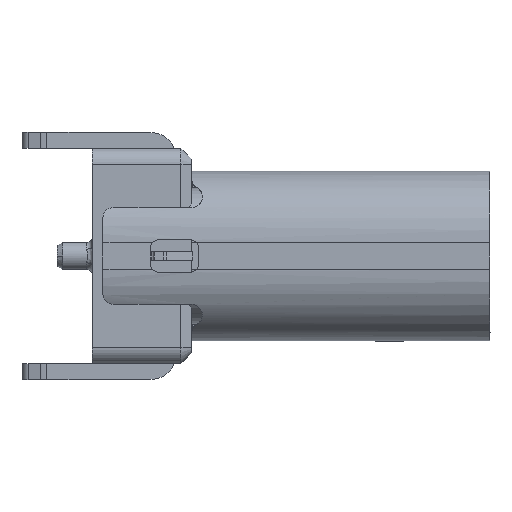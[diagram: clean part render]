
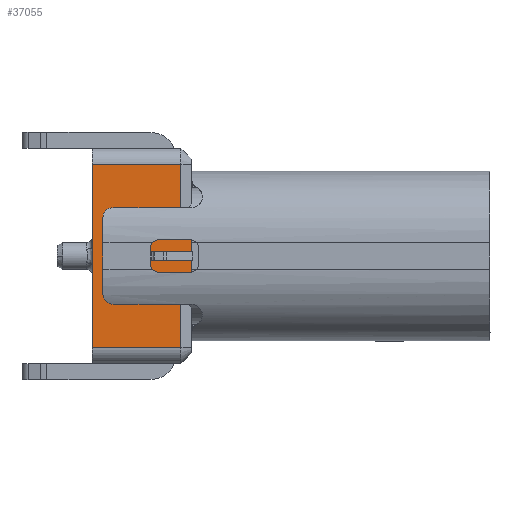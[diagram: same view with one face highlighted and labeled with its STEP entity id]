
A CAD part, left-side view. The second image highlights one B-rep face of the part: STEP entity #37055.
In plain terms, the highlighted planar face has unit normal (-1, 0, 0).
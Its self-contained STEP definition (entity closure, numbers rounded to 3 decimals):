
#50 = LINE ( 'NONE', #19862, #40160 ) ;
#62 = CARTESIAN_POINT ( 'NONE',  ( 3.596, 18.657, 17.197 ) ) ;
#67 = CARTESIAN_POINT ( 'NONE',  ( 3.596, 17.007, 15.663 ) ) ;
#340 = EDGE_CURVE ( 'NONE', #45138, #15891, #50, .T. ) ;
#435 = DIRECTION ( 'NONE',  ( 1., 0., 0. ) ) ;
#540 = EDGE_CURVE ( 'NONE', #43798, #48320, #36778, .T. ) ;
#611 = ORIENTED_EDGE ( 'NONE', *, *, #29175, .T. ) ;
#826 = CARTESIAN_POINT ( 'NONE',  ( 3.596, 18.103, 17.438 ) ) ;
#935 = DIRECTION ( 'NONE',  ( 0., 1., 0. ) ) ;
#981 = CARTESIAN_POINT ( 'NONE',  ( 3.596, 17.007, 19.063 ) ) ;
#1485 = CARTESIAN_POINT ( 'NONE',  ( 3.596, 17.007, 16.675 ) ) ;
#1700 = EDGE_CURVE ( 'NONE', #45138, #21649, #26293, .T. ) ;
#2644 = VERTEX_POINT ( 'NONE', #26685 ) ;
#3043 = DIRECTION ( 'NONE',  ( 0., 0., -1. ) ) ;
#3050 = VERTEX_POINT ( 'NONE', #28895 ) ;
#3332 = VECTOR ( 'NONE', #39953, 1000. ) ;
#3574 = CARTESIAN_POINT ( 'NONE',  ( 3.596, 18.657, 17.544 ) ) ;
#5061 = VECTOR ( 'NONE', #3043, 1000. ) ;
#7215 = CARTESIAN_POINT ( 'NONE',  ( 3.596, 18.657, 17.27 ) ) ;
#7597 = CARTESIAN_POINT ( 'NONE',  ( 3.596, 16.807, 17.288 ) ) ;
#7731 = DIRECTION ( 'NONE',  ( 0., 1., 0. ) ) ;
#7985 = LINE ( 'NONE', #28578, #3332 ) ;
#7996 = CARTESIAN_POINT ( 'NONE',  ( 3.596, 18.657, 17.502 ) ) ;
#8122 = EDGE_CURVE ( 'NONE', #21649, #3050, #39562, .T. ) ;
#8225 = CARTESIAN_POINT ( 'NONE',  ( 3.596, 17.007, 15.663 ) ) ;
#9046 = CARTESIAN_POINT ( 'NONE',  ( 3.596, 16.807, 18.051 ) ) ;
#9542 = VECTOR ( 'NONE', #21591, 1000. ) ;
#9709 = LINE ( 'NONE', #981, #9542 ) ;
#10315 = DIRECTION ( 'NONE',  ( 0., 0., -1. ) ) ;
#11055 = DIRECTION ( 'NONE',  ( 0., 0., -1. ) ) ;
#11484 = VECTOR ( 'NONE', #10315, 1000. ) ;
#11610 = ORIENTED_EDGE ( 'NONE', *, *, #37245, .T. ) ;
#11697 = CARTESIAN_POINT ( 'NONE',  ( 3.596, 18.657, 17.53 ) ) ;
#11701 = DIRECTION ( 'NONE',  ( 0., 0., 1. ) ) ;
#12014 = VECTOR ( 'NONE', #24525, 1000. ) ;
#12330 = PLANE ( 'NONE',  #43874 ) ;
#13131 = ORIENTED_EDGE ( 'NONE', *, *, #340, .F. ) ;
#13565 = ORIENTED_EDGE ( 'NONE', *, *, #27212, .T. ) ;
#13623 = VERTEX_POINT ( 'NONE', #3574 ) ;
#14001 = EDGE_CURVE ( 'NONE', #28748, #15891, #16435, .T. ) ;
#14642 = CARTESIAN_POINT ( 'NONE',  ( 3.596, 18.657, 15.663 ) ) ;
#15280 = VERTEX_POINT ( 'NONE', #45453 ) ;
#15382 = CARTESIAN_POINT ( 'NONE',  ( 3.596, 18.657, 17.34 ) ) ;
#15600 = EDGE_CURVE ( 'NONE', #51687, #3050, #23209, .T. ) ;
#15625 = ORIENTED_EDGE ( 'NONE', *, *, #43473, .T. ) ;
#15891 = VERTEX_POINT ( 'NONE', #1485 ) ;
#15914 = CARTESIAN_POINT ( 'NONE',  ( 3.596, 18.657, 17.363 ) ) ;
#16289 = FACE_OUTER_BOUND ( 'NONE', #37623, .T. ) ;
#16435 = LINE ( 'NONE', #67, #38682 ) ;
#16581 = ORIENTED_EDGE ( 'NONE', *, *, #24324, .T. ) ;
#17517 = VECTOR ( 'NONE', #11055, 1000. ) ;
#18057 = VECTOR ( 'NONE', #51446, 1000. ) ;
#18611 = LINE ( 'NONE', #14642, #33212 ) ;
#19349 = CARTESIAN_POINT ( 'NONE',  ( 3.596, 18.657, 17.387 ) ) ;
#19862 = CARTESIAN_POINT ( 'NONE',  ( 3.596, 16.807, 16.675 ) ) ;
#20181 = CARTESIAN_POINT ( 'NONE',  ( 3.596, 16.807, 16.675 ) ) ;
#21591 = DIRECTION ( 'NONE',  ( 0., 1., 0. ) ) ;
#21649 = VERTEX_POINT ( 'NONE', #38361 ) ;
#21659 = ORIENTED_EDGE ( 'NONE', *, *, #14001, .T. ) ;
#22026 = VECTOR ( 'NONE', #42911, 1000. ) ;
#23052 = CARTESIAN_POINT ( 'NONE',  ( 3.596, 18.657, 17.544 ) ) ;
#23209 = LINE ( 'NONE', #38541, #17517 ) ;
#23324 = CARTESIAN_POINT ( 'NONE',  ( 3.596, 18.657, 17.225 ) ) ;
#24324 = EDGE_CURVE ( 'NONE', #13623, #37108, #26171, .T. ) ;
#24525 = DIRECTION ( 'NONE',  ( 0., 0., 1. ) ) ;
#26171 = B_SPLINE_CURVE_WITH_KNOTS ( 'NONE', 3,
 ( #23052, #11697, #7996, #47096, #28073, #19349, #15914, #15382, #36266, #7215, #23324, #62, #39439 ),
 .UNSPECIFIED., .F., .F.,
 ( 4, 1, 1, 1, 1, 1, 1, 1, 1, 1, 4 ),
 ( 0., 0.125, 0.25, 0.375, 0.438, 0.5, 0.563, 0.625, 0.75, 0.875, 1. ),
 .UNSPECIFIED. ) ;
#26293 = LINE ( 'NONE', #46874, #22026 ) ;
#26307 = DIRECTION ( 'NONE',  ( 0., -1., 0. ) ) ;
#26685 = CARTESIAN_POINT ( 'NONE',  ( 3.596, 17.007, 19.063 ) ) ;
#27212 = EDGE_CURVE ( 'NONE', #48320, #47405, #36802, .T. ) ;
#27611 = CARTESIAN_POINT ( 'NONE',  ( 3.596, 18.657, 17.183 ) ) ;
#28073 = CARTESIAN_POINT ( 'NONE',  ( 3.596, 18.657, 17.419 ) ) ;
#28578 = CARTESIAN_POINT ( 'NONE',  ( 3.596, 16.807, 17.438 ) ) ;
#28642 = ORIENTED_EDGE ( 'NONE', *, *, #36750, .F. ) ;
#28748 = VERTEX_POINT ( 'NONE', #8225 ) ;
#28799 = VECTOR ( 'NONE', #32839, 1000. ) ;
#28895 = CARTESIAN_POINT ( 'NONE',  ( 3.596, 18.103, 17.288 ) ) ;
#28911 = ORIENTED_EDGE ( 'NONE', *, *, #1700, .T. ) ;
#29175 = EDGE_CURVE ( 'NONE', #47405, #2644, #39867, .T. ) ;
#29609 = DIRECTION ( 'NONE',  ( 0., 0., 1. ) ) ;
#30176 = VERTEX_POINT ( 'NONE', #31635 ) ;
#30199 = ORIENTED_EDGE ( 'NONE', *, *, #30440, .T. ) ;
#30440 = EDGE_CURVE ( 'NONE', #30176, #28748, #18611, .T. ) ;
#30497 = CARTESIAN_POINT ( 'NONE',  ( 3.596, 16.807, 18.051 ) ) ;
#31635 = CARTESIAN_POINT ( 'NONE',  ( 3.596, 18.657, 15.663 ) ) ;
#32422 = CARTESIAN_POINT ( 'NONE',  ( 3.596, 17.732, 17.363 ) ) ;
#32839 = DIRECTION ( 'NONE',  ( 0., 1., 0. ) ) ;
#33212 = VECTOR ( 'NONE', #26307, 1000. ) ;
#33531 = VECTOR ( 'NONE', #29609, 1000. ) ;
#34339 = CARTESIAN_POINT ( 'NONE',  ( 3.596, 17.007, 18.051 ) ) ;
#34372 = CARTESIAN_POINT ( 'NONE',  ( 3.596, 18.657, 19.063 ) ) ;
#36266 = CARTESIAN_POINT ( 'NONE',  ( 3.596, 18.657, 17.308 ) ) ;
#36750 = EDGE_CURVE ( 'NONE', #43798, #51687, #7985, .T. ) ;
#36778 = LINE ( 'NONE', #37807, #33531 ) ;
#36802 = LINE ( 'NONE', #9046, #28799 ) ;
#37055 = ADVANCED_FACE ( 'NONE', ( #16289 ), #12330, .F. ) ;
#37108 = VERTEX_POINT ( 'NONE', #49028 ) ;
#37245 = EDGE_CURVE ( 'NONE', #37108, #30176, #51638, .T. ) ;
#37623 = EDGE_LOOP ( 'NONE', ( #41755, #13565, #611, #15625, #43173, #16581, #11610, #30199, #21659, #13131, #28911, #38486, #47952, #28642 ) ) ;
#37807 = CARTESIAN_POINT ( 'NONE',  ( 3.596, 16.807, 17.438 ) ) ;
#37854 = CARTESIAN_POINT ( 'NONE',  ( 3.596, 16.807, 17.438 ) ) ;
#38361 = CARTESIAN_POINT ( 'NONE',  ( 3.596, 16.807, 17.288 ) ) ;
#38486 = ORIENTED_EDGE ( 'NONE', *, *, #8122, .T. ) ;
#38541 = CARTESIAN_POINT ( 'NONE',  ( 3.596, 18.103, 17.438 ) ) ;
#38588 = LINE ( 'NONE', #34372, #11484 ) ;
#38682 = VECTOR ( 'NONE', #11701, 1000. ) ;
#39439 = CARTESIAN_POINT ( 'NONE',  ( 3.596, 18.657, 17.183 ) ) ;
#39562 = LINE ( 'NONE', #7597, #18057 ) ;
#39867 = LINE ( 'NONE', #52014, #12014 ) ;
#39953 = DIRECTION ( 'NONE',  ( 0., 1., 0. ) ) ;
#40160 = VECTOR ( 'NONE', #7731, 1000. ) ;
#41755 = ORIENTED_EDGE ( 'NONE', *, *, #540, .T. ) ;
#42911 = DIRECTION ( 'NONE',  ( 0., 0., 1. ) ) ;
#43173 = ORIENTED_EDGE ( 'NONE', *, *, #50676, .T. ) ;
#43473 = EDGE_CURVE ( 'NONE', #2644, #15280, #9709, .T. ) ;
#43798 = VERTEX_POINT ( 'NONE', #37854 ) ;
#43874 = AXIS2_PLACEMENT_3D ( 'NONE', #32422, #435, #935 ) ;
#45138 = VERTEX_POINT ( 'NONE', #20181 ) ;
#45453 = CARTESIAN_POINT ( 'NONE',  ( 3.596, 18.657, 19.063 ) ) ;
#46874 = CARTESIAN_POINT ( 'NONE',  ( 3.596, 16.807, 16.675 ) ) ;
#47096 = CARTESIAN_POINT ( 'NONE',  ( 3.596, 18.657, 17.457 ) ) ;
#47405 = VERTEX_POINT ( 'NONE', #34339 ) ;
#47952 = ORIENTED_EDGE ( 'NONE', *, *, #15600, .F. ) ;
#48320 = VERTEX_POINT ( 'NONE', #30497 ) ;
#49028 = CARTESIAN_POINT ( 'NONE',  ( 3.596, 18.657, 17.183 ) ) ;
#50676 = EDGE_CURVE ( 'NONE', #15280, #13623, #38588, .T. ) ;
#51446 = DIRECTION ( 'NONE',  ( 0., 1., 0. ) ) ;
#51638 = LINE ( 'NONE', #27611, #5061 ) ;
#51687 = VERTEX_POINT ( 'NONE', #826 ) ;
#52014 = CARTESIAN_POINT ( 'NONE',  ( 3.596, 17.007, 18.051 ) ) ;
